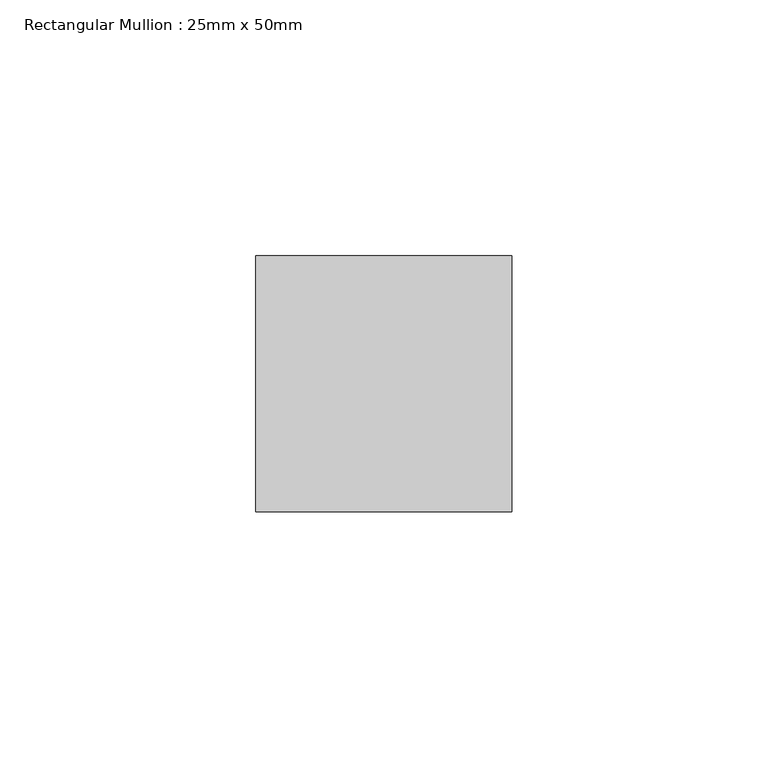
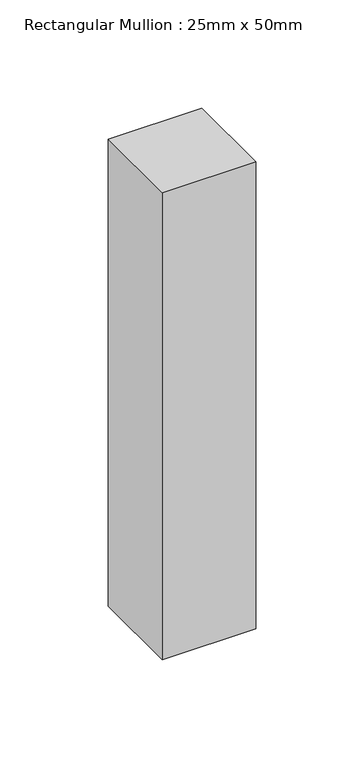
"""IFC4 building model written with IfcOpenShell, lengths in millimetres: member geometry, Rectangular Mullion : 25mm x 50mm."""

from ifc_helpers import new_model, si_unit, frame, origin, place, context, project, spatial, polyline, outline, extrude, source, transform, mapped, element, save


def rectangular_mullion_25mm_x_50mm_9d22a84a(model_context):
    return source(origin(), model_context, "Body", "SweptSolid", [
        extrude(outline(polyline([(25.0, 25.0), (25.0, -25.0), (-25.0, -25.0), (-25.0, 25.0), (25.0, 25.0)])), frame((0.0, 0.0, -263.9835421), z_axis=(0.0, 0.0, 1.0), x_axis=(1.0, 0.0, 0.0)), (0.0, 0.0, 1.0), 263.9835421),
    ])


if __name__ == "__main__":
    model = new_model("IFC4")
    model_context = context("Model", 3, world=origin())
    ifc_project = project(units=[si_unit("LENGTHUNIT", "METRE", prefix="MILLI")], contexts=[model_context])
    site = spatial("IfcSite", under=ifc_project)
    building = spatial("IfcBuilding", under=site)
    placement = place(None, origin())
    rectangular_mullion_25mm_x_50mm_shape = rectangular_mullion_25mm_x_50mm_9d22a84a(model_context)
    element("IfcMember", 1, ObjectType="Rectangular Mullion : 25mm x 50mm", at=placement, inside=building, context=model_context, shape_type="MappedRepresentation", body=[
        mapped(rectangular_mullion_25mm_x_50mm_shape, transform((0.0, 0.0, 0.0), x_axis=(1.0, 0.0, 0.0), y_axis=(0.0, 1.0, 0.0), z_axis=(0.0, 0.0, 1.0))),
    ])
    save(model, "model.ifc")
